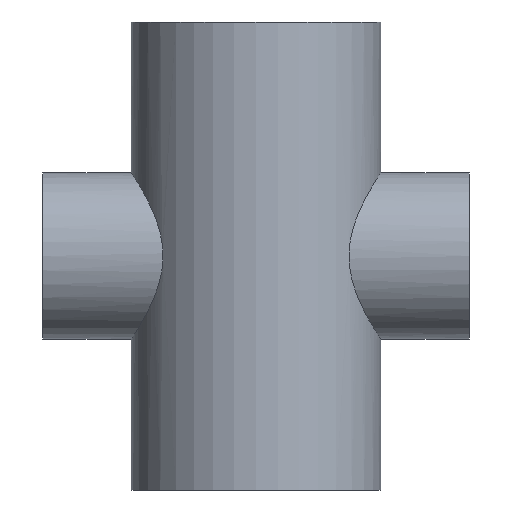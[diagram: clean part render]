
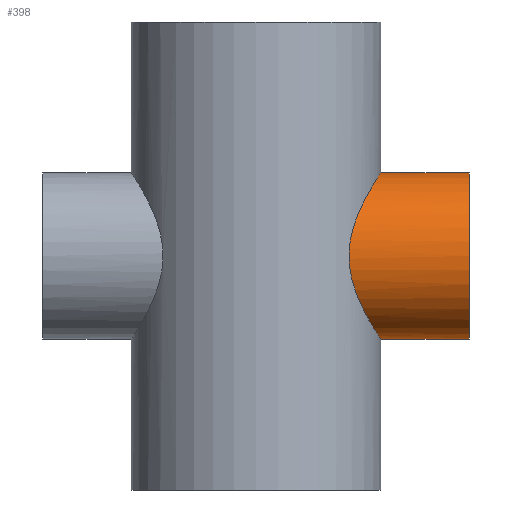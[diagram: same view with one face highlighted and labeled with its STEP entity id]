
A CAD part, front view. The second image highlights one B-rep face of the part: STEP entity #398.
In plain terms, the highlighted cylindrical face has radius 50.8 mm (diameter 101.6 mm), a partial arc.
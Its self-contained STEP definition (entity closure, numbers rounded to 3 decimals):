
#7 = CARTESIAN_POINT ( 'NONE',  ( 66.517, -37.18, 34.626 ) ) ;
#9 = CARTESIAN_POINT ( 'NONE',  ( 65.592, -38.788, 32.814 ) ) ;
#12 = CARTESIAN_POINT ( 'NONE',  ( 65.9, -38.263, 33.425 ) ) ;
#15 = CARTESIAN_POINT ( 'NONE',  ( 64.67, -40.319, 30.945 ) ) ;
#19 = CARTESIAN_POINT ( 'NONE',  ( 73.977, -18.339, -47.404 ) ) ;
#22 = CARTESIAN_POINT ( 'NONE',  ( 74.379, -16.865, 48.035 ) ) ;
#26 = CARTESIAN_POINT ( 'NONE',  ( 62.867, -43.074, 26.979 ) ) ;
#27 = CARTESIAN_POINT ( 'NONE',  ( 61.438, -45.078, 23.436 ) ) ;
#29 = VERTEX_POINT ( 'NONE', #894 ) ;
#33 = CARTESIAN_POINT ( 'NONE',  ( 62.282, -43.912, 25.593 ) ) ;
#39 = CARTESIAN_POINT ( 'NONE',  ( 75.717, -8.613, 50.072 ) ) ;
#46 = CARTESIAN_POINT ( 'NONE',  ( 75.615, -9.463, 49.918 ) ) ;
#57 = AXIS2_PLACEMENT_3D ( 'NONE', #95, #82, #607 ) ;
#82 = DIRECTION ( 'NONE',  ( 1., 0., 0. ) ) ;
#93 = EDGE_CURVE ( 'NONE', #29, #445, #613, .T. ) ;
#95 = CARTESIAN_POINT ( 'NONE',  ( -130.175, 0., 0. ) ) ;
#106 = CARTESIAN_POINT ( 'NONE',  ( 64.061, -41.277, 29.655 ) ) ;
#153 = CARTESIAN_POINT ( 'NONE',  ( 130.175, 0., 0. ) ) ;
#158 = DIRECTION ( 'NONE',  ( -1., 0., 0. ) ) ;
#186 = DIRECTION ( 'NONE',  ( 0., 0., -1. ) ) ;
#206 = CARTESIAN_POINT ( 'NONE',  ( 75.043, -13.657, 49.05 ) ) ;
#229 = VERTEX_POINT ( 'NONE', #336 ) ;
#336 = CARTESIAN_POINT ( 'NONE',  ( 130.175, 0., 50.8 ) ) ;
#344 = ORIENTED_EDGE ( 'NONE', *, *, #446, .F. ) ;
#352 = CYLINDRICAL_SURFACE ( 'NONE', #57, 50.8 ) ;
#390 = CARTESIAN_POINT ( 'NONE',  ( 76.2, 0., 50.8 ) ) ;
#394 = CARTESIAN_POINT ( 'NONE',  ( 59.159, -48.031, 16.626 ) ) ;
#398 = ADVANCED_FACE ( 'NONE', ( #805 ), #352, .T. ) ;
#402 = CARTESIAN_POINT ( 'NONE',  ( 76.2, -1.74, 50.8 ) ) ;
#406 = CARTESIAN_POINT ( 'NONE',  ( 76.14, -3.469, 50.711 ) ) ;
#408 = CARTESIAN_POINT ( 'NONE',  ( 75.965, -6.048, 50.446 ) ) ;
#418 = CARTESIAN_POINT ( 'NONE',  ( 75.891, -6.905, 50.336 ) ) ;
#421 = CARTESIAN_POINT ( 'NONE',  ( 73.336, -20.709, 46.395 ) ) ;
#430 = VECTOR ( 'NONE', #973, 1000. ) ;
#445 = VERTEX_POINT ( 'NONE', #1020 ) ;
#446 = EDGE_CURVE ( 'NONE', #445, #229, #827, .T. ) ;
#516 = EDGE_LOOP ( 'NONE', ( #344, #1014, #1098, #610 ) ) ;
#518 = VECTOR ( 'NONE', #916, 1000. ) ;
#553 = CARTESIAN_POINT ( 'NONE',  ( 66.826, -36.622, 35.216 ) ) ;
#554 = CARTESIAN_POINT ( 'NONE',  ( 73.117, -21.47, 46.048 ) ) ;
#558 = CARTESIAN_POINT ( 'NONE',  ( 72.658, -22.974, 45.316 ) ) ;
#559 = CARTESIAN_POINT ( 'NONE',  ( 74.352, -16.762, -47.985 ) ) ;
#607 = DIRECTION ( 'NONE',  ( 0., 0., -1. ) ) ;
#608 = VERTEX_POINT ( 'NONE', #634 ) ;
#610 = ORIENTED_EDGE ( 'NONE', *, *, #715, .T. ) ;
#613 = B_SPLINE_CURVE_WITH_KNOTS ( 'NONE', 3,
 ( #839, #851, #837, #833, #632, #559, #19, #636, #641, #661, #714, #880, #884, #856, #738, #918, #920, #913, #896, #873, #974, #969, #967, #965, #960, #953, #949, #945, #923, #870, #886, #865, #709, #702, #659, #627, #655, #1060, #650, #654, #741, #394, #642, #758, #647, #637, #27, #33, #26, #106, #15, #9, #12, #7, #553, #668, #822, #733, #817, #829, #558, #554, #421, #22, #206, #46, #39, #418, #408, #406, #402, #390 ),
 .UNSPECIFIED., .F., .F.,
 ( 4, 2, 2, 2, 2, 2, 2, 2, 2, 2, 2, 2, 2, 2, 2, 2, 2, 2, 2, 2, 2, 2, 2, 2, 2, 2, 2, 2, 2, 2, 2, 2, 2, 2, 2, 4 ),
 ( 0., 0.01, 0.015, 0.021, 0.026, 0.028, 0.031, 0.041, 0.046, 0.049, 0.051, 0.062, 0.064, 0.067, 0.072, 0.077, 0.079, 0.082, 0.092, 0.095, 0.097, 0.103, 0.105, 0.108, 0.113, 0.118, 0.121, 0.123, 0.133, 0.138, 0.141, 0.144, 0.154, 0.156, 0.159, 0.164 ),
 .UNSPECIFIED. ) ;
#627 = CARTESIAN_POINT ( 'NONE',  ( 56.791, -50.805, 3.367 ) ) ;
#632 = CARTESIAN_POINT ( 'NONE',  ( 75.011, -13.51, -49. ) ) ;
#634 = CARTESIAN_POINT ( 'NONE',  ( 130.175, 0., -50.8 ) ) ;
#636 = CARTESIAN_POINT ( 'NONE',  ( 73.149, -21.404, -46.101 ) ) ;
#637 = CARTESIAN_POINT ( 'NONE',  ( 61.162, -45.452, 22.703 ) ) ;
#641 = CARTESIAN_POINT ( 'NONE',  ( 72.696, -22.891, -45.38 ) ) ;
#642 = CARTESIAN_POINT ( 'NONE',  ( 59.619, -47.463, 18.183 ) ) ;
#647 = CARTESIAN_POINT ( 'NONE',  ( 60.626, -46.164, 21.217 ) ) ;
#650 = CARTESIAN_POINT ( 'NONE',  ( 58., -49.422, 11.781 ) ) ;
#654 = CARTESIAN_POINT ( 'NONE',  ( 58.355, -49.003, 13.42 ) ) ;
#655 = CARTESIAN_POINT ( 'NONE',  ( 57.102, -50.464, 6.762 ) ) ;
#659 = CARTESIAN_POINT ( 'NONE',  ( 56.797, -50.799, -0.94 ) ) ;
#661 = CARTESIAN_POINT ( 'NONE',  ( 71.966, -25.059, -44.197 ) ) ;
#668 = CARTESIAN_POINT ( 'NONE',  ( 68.354, -33.776, 38.082 ) ) ;
#702 = CARTESIAN_POINT ( 'NONE',  ( 56.818, -50.775, -1.804 ) ) ;
#709 = CARTESIAN_POINT ( 'NONE',  ( 56.9, -50.684, -3.54 ) ) ;
#714 = CARTESIAN_POINT ( 'NONE',  ( 71.714, -25.771, -43.785 ) ) ;
#715 = EDGE_CURVE ( 'NONE', #608, #229, #787, .T. ) ;
#733 = CARTESIAN_POINT ( 'NONE',  ( 71.162, -27.285, 42.881 ) ) ;
#738 = CARTESIAN_POINT ( 'NONE',  ( 68.372, -33.739, -38.113 ) ) ;
#741 = CARTESIAN_POINT ( 'NONE',  ( 58.546, -48.774, 14.229 ) ) ;
#758 = CARTESIAN_POINT ( 'NONE',  ( 60.367, -46.503, 20.465 ) ) ;
#762 = CARTESIAN_POINT ( 'NONE',  ( -130.175, 0., -50.8 ) ) ;
#787 = CIRCLE ( 'NONE', #788, 50.8 ) ;
#788 = AXIS2_PLACEMENT_3D ( 'NONE', #153, #158, #186 ) ;
#805 = FACE_OUTER_BOUND ( 'NONE', #516, .T. ) ;
#817 = CARTESIAN_POINT ( 'NONE',  ( 71.683, -25.892, 43.738 ) ) ;
#822 = CARTESIAN_POINT ( 'NONE',  ( 69.532, -31.306, 40.139 ) ) ;
#827 = LINE ( 'NONE', #1008, #430 ) ;
#829 = CARTESIAN_POINT ( 'NONE',  ( 72.42, -23.716, 44.932 ) ) ;
#833 = CARTESIAN_POINT ( 'NONE',  ( 75.29, -11.863, -49.425 ) ) ;
#837 = CARTESIAN_POINT ( 'NONE',  ( 75.964, -6.872, -50.447 ) ) ;
#839 = CARTESIAN_POINT ( 'NONE',  ( 76.2, 0., -50.8 ) ) ;
#851 = CARTESIAN_POINT ( 'NONE',  ( 76.2, -3.474, -50.8 ) ) ;
#856 = CARTESIAN_POINT ( 'NONE',  ( 69.553, -31.263, -40.175 ) ) ;
#865 = CARTESIAN_POINT ( 'NONE',  ( 56.96, -50.616, -4.401 ) ) ;
#870 = CARTESIAN_POINT ( 'NONE',  ( 57.427, -50.088, -8.643 ) ) ;
#873 = CARTESIAN_POINT ( 'NONE',  ( 64.093, -41.218, -29.705 ) ) ;
#880 = CARTESIAN_POINT ( 'NONE',  ( 71.194, -27.174, -42.929 ) ) ;
#884 = CARTESIAN_POINT ( 'NONE',  ( 70.926, -27.866, -42.483 ) ) ;
#886 = CARTESIAN_POINT ( 'NONE',  ( 57.196, -50.35, -6.963 ) ) ;
#891 = EDGE_CURVE ( 'NONE', #29, #608, #937, .T. ) ;
#894 = CARTESIAN_POINT ( 'NONE',  ( 76.2, 0., -50.8 ) ) ;
#896 = CARTESIAN_POINT ( 'NONE',  ( 64.702, -40.254, -30.998 ) ) ;
#913 = CARTESIAN_POINT ( 'NONE',  ( 65.01, -39.755, -31.636 ) ) ;
#916 = DIRECTION ( 'NONE',  ( 1., 0., 0. ) ) ;
#918 = CARTESIAN_POINT ( 'NONE',  ( 66.55, -37.137, -34.7 ) ) ;
#920 = CARTESIAN_POINT ( 'NONE',  ( 65.935, -38.216, -33.508 ) ) ;
#923 = CARTESIAN_POINT ( 'NONE',  ( 58.017, -49.403, -11.953 ) ) ;
#937 = LINE ( 'NONE', #762, #518 ) ;
#945 = CARTESIAN_POINT ( 'NONE',  ( 58.377, -48.98, -13.582 ) ) ;
#949 = CARTESIAN_POINT ( 'NONE',  ( 58.999, -48.225, -15.99 ) ) ;
#953 = CARTESIAN_POINT ( 'NONE',  ( 59.22, -47.954, -16.786 ) ) ;
#960 = CARTESIAN_POINT ( 'NONE',  ( 59.681, -47.379, -18.346 ) ) ;
#965 = CARTESIAN_POINT ( 'NONE',  ( 59.922, -47.074, -19.114 ) ) ;
#967 = CARTESIAN_POINT ( 'NONE',  ( 61.168, -45.47, -22.888 ) ) ;
#969 = CARTESIAN_POINT ( 'NONE',  ( 62.301, -43.928, -25.715 ) ) ;
#973 = DIRECTION ( 'NONE',  ( 1., 0., 0. ) ) ;
#974 = CARTESIAN_POINT ( 'NONE',  ( 63.791, -41.683, -29.049 ) ) ;
#1008 = CARTESIAN_POINT ( 'NONE',  ( -130.175, 0., 50.8 ) ) ;
#1014 = ORIENTED_EDGE ( 'NONE', *, *, #93, .F. ) ;
#1020 = CARTESIAN_POINT ( 'NONE',  ( 76.2, 0., 50.8 ) ) ;
#1060 = CARTESIAN_POINT ( 'NONE',  ( 57.836, -49.614, 10.948 ) ) ;
#1098 = ORIENTED_EDGE ( 'NONE', *, *, #891, .T. ) ;
